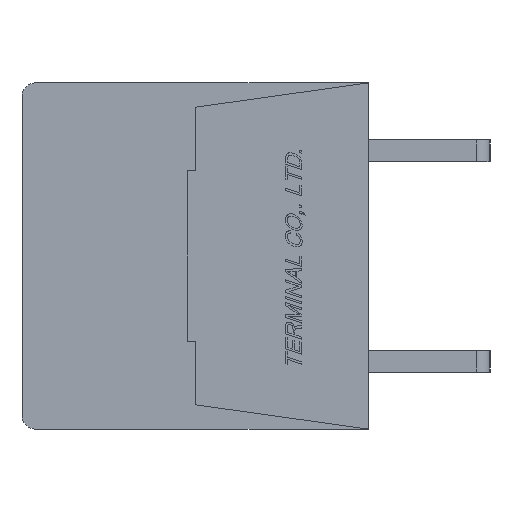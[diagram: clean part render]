
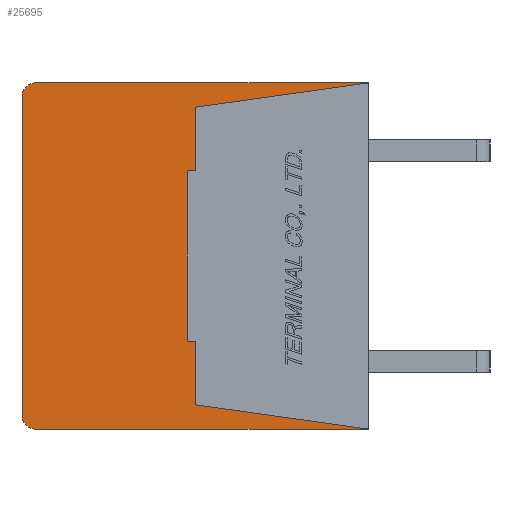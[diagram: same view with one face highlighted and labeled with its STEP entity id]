
A CAD part, left-side view. The second image highlights one B-rep face of the part: STEP entity #25695.
In plain terms, the highlighted planar face has unit normal (-1, 0, 0).
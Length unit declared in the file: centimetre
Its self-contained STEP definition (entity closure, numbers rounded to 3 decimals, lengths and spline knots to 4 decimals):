
#1342=CIRCLE('',#43793,0.05);
#1343=CIRCLE('',#43796,0.05);
#2507=VERTEX_POINT('',#36193);
#2508=VERTEX_POINT('',#36195);
#2509=VERTEX_POINT('',#36199);
#2510=VERTEX_POINT('',#36203);
#2511=VERTEX_POINT('',#36207);
#2512=VERTEX_POINT('',#36211);
#2513=VERTEX_POINT('',#36214);
#2514=VERTEX_POINT('',#36216);
#2515=VERTEX_POINT('',#36218);
#2516=VERTEX_POINT('',#36220);
#2517=VERTEX_POINT('',#36222);
#2518=VERTEX_POINT('',#36224);
#5183=VECTOR('',#29815,1.);
#5187=VECTOR('',#29824,1.);
#5190=VECTOR('',#29832,1.);
#5191=VECTOR('',#29833,1.);
#5192=VECTOR('',#29834,1.);
#5193=VECTOR('',#29835,1.);
#5194=VECTOR('',#29836,1.);
#5195=VECTOR('',#29837,1.);
#5196=VECTOR('',#29838,1.);
#5197=VECTOR('',#29839,1.);
#8205=LINE('',#36194,#5183);
#8209=LINE('',#36204,#5187);
#8212=LINE('',#36212,#5190);
#8213=LINE('',#36213,#5191);
#8214=LINE('',#36215,#5192);
#8215=LINE('',#36217,#5193);
#8216=LINE('',#36219,#5194);
#8217=LINE('',#36221,#5195);
#8218=LINE('',#36223,#5196);
#8219=LINE('',#36225,#5197);
#11635=EDGE_CURVE('',#2508,#2507,#8205,.T.);
#11638=EDGE_CURVE('',#2509,#2507,#1342,.T.);
#11640=EDGE_CURVE('',#2509,#2510,#8209,.T.);
#11642=EDGE_CURVE('',#2511,#2510,#1343,.T.);
#11644=EDGE_CURVE('',#2511,#2512,#8212,.T.);
#11645=EDGE_CURVE('',#2513,#2508,#8213,.T.);
#11646=EDGE_CURVE('',#2512,#2514,#8214,.T.);
#11647=EDGE_CURVE('',#2514,#2515,#8215,.T.);
#11648=EDGE_CURVE('',#2515,#2516,#8216,.T.);
#11649=EDGE_CURVE('',#2516,#2517,#8217,.T.);
#11650=EDGE_CURVE('',#2517,#2518,#8218,.T.);
#11651=EDGE_CURVE('',#2518,#2513,#8219,.T.);
#16927=ORIENTED_EDGE('',*,*,#11645,.T.);
#16928=ORIENTED_EDGE('',*,*,#11635,.T.);
#16929=ORIENTED_EDGE('',*,*,#11638,.F.);
#16930=ORIENTED_EDGE('',*,*,#11640,.T.);
#16931=ORIENTED_EDGE('',*,*,#11642,.F.);
#16932=ORIENTED_EDGE('',*,*,#11644,.T.);
#16933=ORIENTED_EDGE('',*,*,#11646,.T.);
#16934=ORIENTED_EDGE('',*,*,#11647,.T.);
#16935=ORIENTED_EDGE('',*,*,#11648,.T.);
#16936=ORIENTED_EDGE('',*,*,#11649,.T.);
#16937=ORIENTED_EDGE('',*,*,#11650,.T.);
#16938=ORIENTED_EDGE('',*,*,#11651,.T.);
#22419=EDGE_LOOP('',(#16927,#16928,#16929,#16930,#16931,#16932,#16933,#16934,
#16935,#16936,#16937,#16938));
#24093=FACE_BOUND('',#22419,.T.);
#25695=ADVANCED_FACE('',(#24093),#27044,.F.);
#27044=PLANE('',#43790);
#29701=DIRECTION('',(1.,0.,0.));
#29815=DIRECTION('',(0.,1.,0.));
#29820=DIRECTION('',(1.,0.,0.));
#29821=DIRECTION('',(0.,0.,-0.05));
#29824=DIRECTION('',(0.,0.,-1.));
#29828=DIRECTION('',(1.,0.,0.));
#29829=DIRECTION('',(0.,0.,-0.05));
#29832=DIRECTION('',(0.,-1.,0.));
#29833=DIRECTION('',(0.,-0.99,0.139));
#29834=DIRECTION('',(0.,0.99,0.139));
#29835=DIRECTION('',(0.,0.,1.));
#29836=DIRECTION('',(0.,1.,0.));
#29837=DIRECTION('',(0.,0.,1.));
#29838=DIRECTION('',(0.,-1.,0.));
#29839=DIRECTION('',(0.,0.,1.));
#35760=CARTESIAN_POINT('',(-1.,0.6345,0.));
#36193=CARTESIAN_POINT('',(-1.,1.23,0.64));
#36194=CARTESIAN_POINT('',(-1.,0.,0.64));
#36195=CARTESIAN_POINT('',(-1.,0.,0.64));
#36199=CARTESIAN_POINT('',(-1.,1.28,0.59));
#36200=CARTESIAN_POINT('',(-1.,1.23,0.59));
#36203=CARTESIAN_POINT('',(-1.,1.28,-0.59));
#36204=CARTESIAN_POINT('',(-1.,1.28,0.59));
#36207=CARTESIAN_POINT('',(-1.,1.23,-0.64));
#36208=CARTESIAN_POINT('',(-1.,1.23,-0.59));
#36211=CARTESIAN_POINT('',(-1.,0.,-0.64));
#36212=CARTESIAN_POINT('',(-1.,1.23,-0.64));
#36213=CARTESIAN_POINT('',(-1.,0.64,0.55));
#36214=CARTESIAN_POINT('',(-1.,0.64,0.55));
#36215=CARTESIAN_POINT('',(-1.,0.,-0.64));
#36216=CARTESIAN_POINT('',(-1.,0.64,-0.55));
#36217=CARTESIAN_POINT('',(-1.,0.64,-0.55));
#36218=CARTESIAN_POINT('',(-1.,0.64,-0.315));
#36219=CARTESIAN_POINT('',(-1.,0.64,-0.315));
#36220=CARTESIAN_POINT('',(-1.,0.67,-0.315));
#36221=CARTESIAN_POINT('',(-1.,0.67,-0.315));
#36222=CARTESIAN_POINT('',(-1.,0.67,0.315));
#36223=CARTESIAN_POINT('',(-1.,0.67,0.315));
#36224=CARTESIAN_POINT('',(-1.,0.64,0.315));
#36225=CARTESIAN_POINT('',(-1.,0.64,0.315));
#43790=AXIS2_PLACEMENT_3D('',#35760,#29701,$);
#43793=AXIS2_PLACEMENT_3D('',#36200,#29820,#29821);
#43796=AXIS2_PLACEMENT_3D('',#36208,#29828,#29829);
